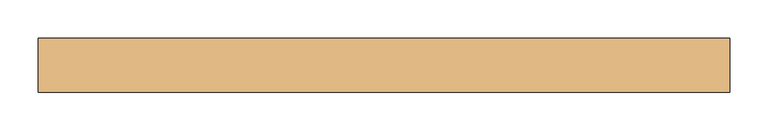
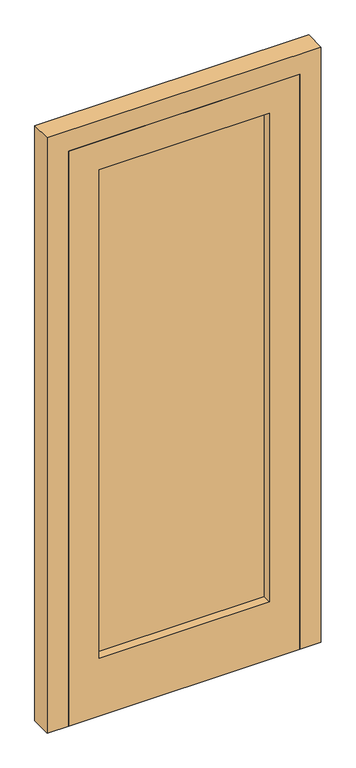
"""IFC4 building model written with IfcOpenShell, lengths in millimetres: door geometry, (Dr)_ДПУ(распашная)_1Ст_Прямоугольная : (Вн)-ДО(0.9x2.065(h))."""

from ifc_helpers import new_model, si_unit, frame, origin, place, context, project, spatial, polyline, outline, extrude, source, transform, mapped, element, save


def door_d470666a(model_context):
    return source(origin(), model_context, "Body", "SweptSolid", [
        extrude(outline(polyline([(-280.0, 5.0), (280.0, 5.0), (280.0, -5.0), (-280.0, -5.0), (-280.0, 5.0)])), frame((0.0, 0.0, 200.0), z_axis=(0.0, 0.0, 1.0), x_axis=(1.0, 0.0, 0.0)), (0.0, 0.0, 1.0), 1695.0),
        extrude(outline(polyline([(0.0, -380.0), (0.0, 380.0), (1995.0, 380.0), (1995.0, -380.0), (0.0, -380.0)]), holes=[polyline([(1895.0, -280.0), (1895.0, 280.0), (200.0, 280.0), (200.0, -280.0), (1895.0, -280.0)])]), frame((0.0, -35.0, 0.0), z_axis=(0.0, 1.0, 0.0), x_axis=(0.0, 0.0, 1.0)), (0.0, 0.0, 1.0), 70.0),
        extrude(outline(polyline([(2065.0, 450.0), (2065.0, -450.0), (0.0, -450.0), (0.0, -380.0), (1995.0, -380.0), (1995.0, 380.0), (0.0, 380.0), (0.0, 450.0), (2065.0, 450.0)])), frame((0.0, -35.0, 0.0), z_axis=(0.0, 1.0, 0.0), x_axis=(0.0, 0.0, 1.0)), (0.0, 0.0, 1.0), 70.0),
    ])


if __name__ == "__main__":
    model = new_model("IFC4")
    model_context = context("Model", 3, world=origin())
    ifc_project = project(units=[si_unit("LENGTHUNIT", "METRE", prefix="MILLI")], contexts=[model_context])
    site = spatial("IfcSite", under=ifc_project)
    building = spatial("IfcBuilding", under=site)
    placement = place(None, origin())
    door_shape = door_d470666a(model_context)
    element("IfcDoor", 1, ObjectType="(Dr)_ДПУ(распашная)_1Ст_Прямоугольная : (Вн)-ДО(0.9x2.065(h))", at=placement, inside=building, context=model_context, shape_type="MappedRepresentation", body=[
        mapped(door_shape, transform((0.0, 0.0, 0.0), x_axis=(1.0, 0.0, 0.0), y_axis=(0.0, 1.0, 0.0), z_axis=(0.0, 0.0, 1.0))),
    ])
    save(model, "model.ifc")
